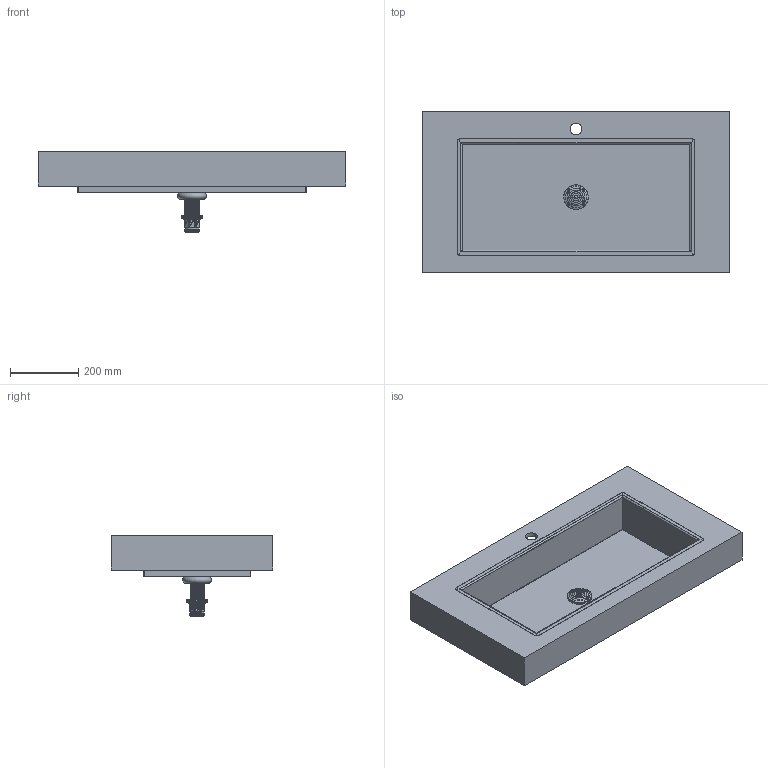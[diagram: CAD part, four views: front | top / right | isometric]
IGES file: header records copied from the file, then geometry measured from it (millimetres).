
Start section: Data from Parasolid IGES Translator 19.0.9, Copyright(c) 2006 Siemens PL M Software. All Rights Reserved.
Global section: file name: noorth-top-H 10 D 47,3 W 90_6557.igs; native system: By Siemens PLM Incorporated; preprocessor: XPlus GENERIC/IGES 19.0.9; author: Noname; organization: Noname; date: 20200603.105633; units: metre
Bounding box: 900 x 472 x 235.2 mm (x, y, z)
Volume: 4604117.4 mm3; surface area: 1759905.6 mm2
Topology: 2 solids, 2 shells, 11736 faces, 35128 edges, 35014 vertices
Faces by surface type: extrusion 11618, plane 64, cylinder 28, bspline 20, torus 4, cone 2
Full cylindrical faces by diameter (mm): 34.9 x1, 42 x1, 46 x1, 47.6 x1
